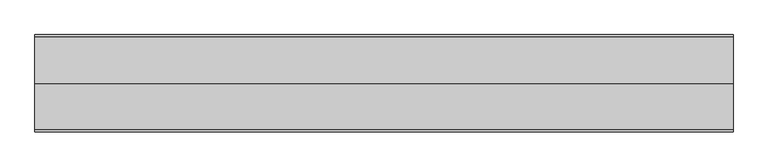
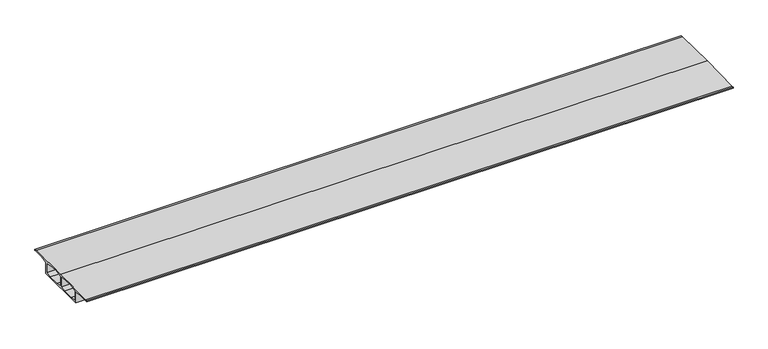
"""IFC4 building model written with IfcOpenShell, lengths in millimetres: beam geometry, 상부 본체 : 상부 본체."""

from ifc_helpers import new_model, si_unit, frame, origin, place, context, project, spatial, polyline, outline, extrude, source, transform, mapped, element, save


def beam_02307f55(model_context):
    return source(origin(), model_context, "Body", "SweptSolid", [
        extrude(outline(polyline([(9998.0465888, -280.0), (10448.0465888, -280.0), (10448.0465888, -555.0), (9998.0465888, -555.0), (7797.8003724, -511.0500702), (5998.108729, -824.9406268), (5998.108729, -3480.0), (-6002.0155515, -3480.0), (-6002.0155515, -825.1992192), (-7802.0155515, -511.0562373), (-9999.2036862, -555.0), (-10451.9534112, -555.0), (-10451.9534112, -280.0), (-10001.9534112, -280.0), (0.0, -80.0), (9998.0465888, -280.0)]), holes=[polyline([(-5502.0155515, -815.3051477), (-5502.0155515, -2980.2424856), (-4202.0155511, -3230.0000001), (-1552.0155511, -3230.0000001), (-252.01555, -2980.2424856), (-252.01555, -695.4852228), (-2052.0155515, -396.0562373), (-3701.8743199, -429.0534127), (-5502.0155515, -815.3051477)]), polyline([(248.108729, -715.7422858), (248.108729, -2980.2424856), (1548.1087286, -3230.0), (4198.1087286, -3230.0), (5498.108729, -2980.2424856), (5498.108729, -814.9440311), (3698.108729, -429.0562373), (2048.108729, -396.0562373), (248.108729, -715.7422858)])]), frame((-75000.0, 0.0, 0.0), z_axis=(1.0, 0.0, 0.0), x_axis=(0.0, 1.0, 0.0)), (0.0, 0.0, 1.0), 150000.0),
    ])


if __name__ == "__main__":
    model = new_model("IFC4")
    model_context = context("Model", 3, world=origin())
    ifc_project = project(units=[si_unit("LENGTHUNIT", "METRE", prefix="MILLI")], contexts=[model_context])
    site = spatial("IfcSite", under=ifc_project)
    building = spatial("IfcBuilding", under=site)
    placement = place(None, origin())
    beam_shape = beam_02307f55(model_context)
    element("IfcBeam", 1, ObjectType="상부 본체 : 상부 본체", at=placement, inside=building, context=model_context, shape_type="MappedRepresentation", body=[
        mapped(beam_shape, transform((0.0, 0.0, 0.0), x_axis=(1.0, 0.0, 0.0), y_axis=(0.0, 1.0, 0.0), z_axis=(0.0, 0.0, 1.0))),
    ])
    save(model, "model.ifc")
